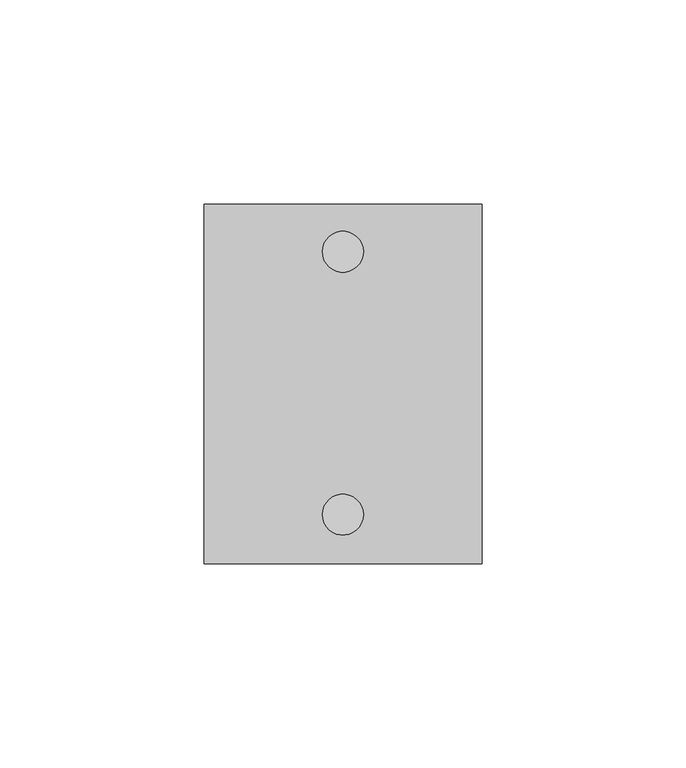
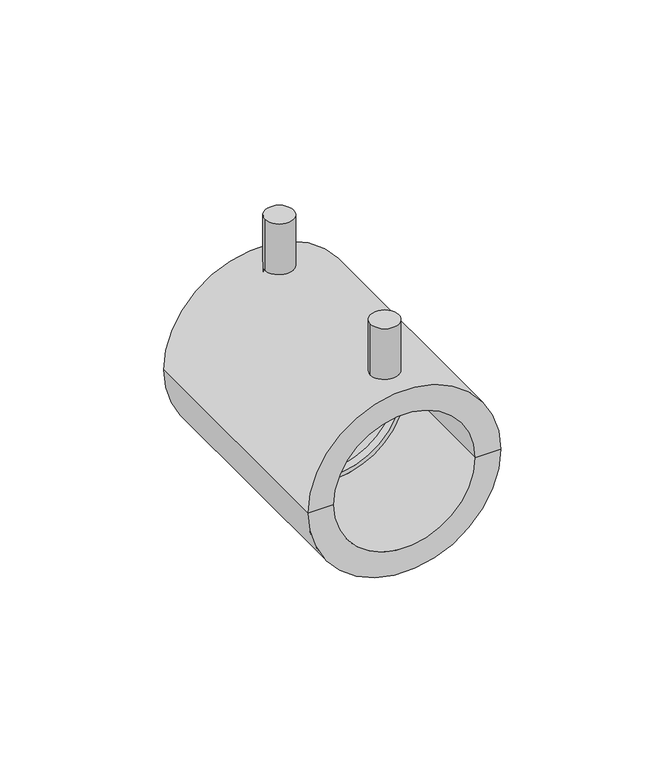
"""IFC4 building model written with IfcOpenShell, lengths in millimetres: pipe fitting geometry, NIRON RED electrico manguito : Estándar."""

from ifc_helpers import new_model, si_unit, point, frame, frame_2d, origin, place, context, project, spatial, polyline, circle_curve, trimmed, segment, composite_curve, outline, extrude, source, transform, mapped, element, save
from ifc_brep_helpers import plane_surface, cylinder_surface, revolved_surface, advanced_brep


def pipe_fitting_b99a54ee(model_context):
    return source(origin(), model_context, "Body", "SolidModel", [
        advanced_brep(
        [(34.0, 88.0, 0.0), (-34.0, 88.0, 0.0), (-25.0, 88.0, 0.0), (25.0, 88.0, 0.0), (34.0, 0.0, 0.0), (-34.0, 0.0, 0.0), (25.0, 0.0, 0.0), (-25.0, 0.0, 0.0), (25.0, 42.5, 0.0), (-25.0, 42.5, 0.0), (23.5, 42.5, 0.0), (-23.5, 42.5, 0.0), (23.5, 45.5, 0.0), (-23.5, 45.5, 0.0), (25.0, 45.5, 0.0), (-25.0, 45.5, 0.0)],
        [
            (0, 1, circle_curve(frame((0.0, 88.0, 0.0), z_axis=(0.0, 1.0, 0.0), x_axis=(-1.0, 0.0, 0.0)), 34.0)),
            (1, 2),
            (2, 3, circle_curve(frame((0.0, 88.0, 0.0), z_axis=(0.0, -1.0, 0.0), x_axis=(-1.0, 0.0, 0.0)), 25.0)),
            (3, 0),
            (1, 0, circle_curve(frame((0.0, 88.0, 0.0), z_axis=(0.0, 1.0, 0.0), x_axis=(-1.0, 0.0, 0.0)), 34.0)),
            (3, 2, circle_curve(frame((0.0, 88.0, 0.0), z_axis=(0.0, -1.0, 0.0), x_axis=(-1.0, 0.0, 0.0)), 25.0)),
            (4, 5, circle_curve(frame((0.0, 0.0, 0.0), z_axis=(0.0, 1.0, 0.0), x_axis=(-1.0, 0.0, 0.0)), 34.0)),
            (5, 1),
            (0, 4),
            (5, 4, circle_curve(frame((0.0, 0.0, 0.0), z_axis=(0.0, 1.0, 0.0), x_axis=(-1.0, 0.0, 0.0)), 34.0)),
            (6, 7, circle_curve(frame((0.0, 0.0, 0.0), z_axis=(0.0, 1.0, 0.0), x_axis=(-1.0, 0.0, 0.0)), 25.0)),
            (7, 5),
            (4, 6),
            (7, 6, circle_curve(frame((0.0, 0.0, 0.0), z_axis=(0.0, 1.0, 0.0), x_axis=(-1.0, 0.0, 0.0)), 25.0)),
            (8, 9, circle_curve(frame((0.0, 42.5, 0.0), z_axis=(0.0, 1.0, 0.0), x_axis=(-1.0, 0.0, 0.0)), 25.0)),
            (9, 7),
            (6, 8),
            (9, 8, circle_curve(frame((0.0, 42.5, 0.0), z_axis=(0.0, 1.0, 0.0), x_axis=(-1.0, 0.0, 0.0)), 25.0)),
            (10, 11, circle_curve(frame((0.0, 42.5, 0.0), z_axis=(0.0, 1.0, 0.0), x_axis=(-1.0, 0.0, 0.0)), 23.5)),
            (11, 9),
            (8, 10),
            (11, 10, circle_curve(frame((0.0, 42.5, 0.0), z_axis=(0.0, 1.0, 0.0), x_axis=(-1.0, 0.0, 0.0)), 23.5)),
            (12, 13, circle_curve(frame((0.0, 45.5, 0.0), z_axis=(0.0, 1.0, 0.0), x_axis=(-1.0, 0.0, 0.0)), 23.5)),
            (13, 11),
            (10, 12),
            (13, 12, circle_curve(frame((0.0, 45.5, 0.0), z_axis=(0.0, 1.0, 0.0), x_axis=(-1.0, 0.0, 0.0)), 23.5)),
            (14, 15, circle_curve(frame((0.0, 45.5, 0.0), z_axis=(0.0, 1.0, 0.0), x_axis=(-1.0, 0.0, 0.0)), 25.0)),
            (15, 13),
            (12, 14),
            (15, 14, circle_curve(frame((0.0, 45.5, 0.0), z_axis=(0.0, 1.0, 0.0), x_axis=(-1.0, 0.0, 0.0)), 25.0)),
            (2, 15),
            (14, 3),
        ],
        [
            plane_surface(frame((0.0, 88.0, 0.0), z_axis=(0.0, 1.0, 0.0), x_axis=(-1.0, 0.0, 0.0))),
            cylinder_surface(frame((0.0, 113.0, 0.0), z_axis=(0.0, -1.0, 0.0), x_axis=(-1.0, 0.0, 0.0)), 34.0),
            plane_surface(frame((0.0, 0.0, 0.0), z_axis=(0.0, -1.0, 0.0), x_axis=(-1.0, 0.0, 0.0))),
            revolved_surface(polyline([(-25.0, 0.0, 0.0), (-25.0, 42.5, 0.0)]), (0.0, 113.0, 0.0), (0.0, -1.0, 0.0)),
            plane_surface(frame((0.0, 42.5, 0.0), z_axis=(0.0, -1.0, 0.0), x_axis=(-1.0, 0.0, 0.0))),
            revolved_surface(polyline([(-23.5, 42.5, 0.0), (-23.5, 45.5, 0.0)]), (0.0, 113.0, 0.0), (0.0, -1.0, 0.0)),
            plane_surface(frame((0.0, 45.5, 0.0), z_axis=(0.0, 1.0, 0.0), x_axis=(-1.0, 0.0, 0.0))),
            revolved_surface(polyline([(-25.0, 45.5, 0.0), (-25.0, 88.0, 0.0)]), (0.0, 113.0, 0.0), (0.0, -1.0, 0.0)),
        ],
        [
            (0, [[1, 2, 3, 4]]),
            (0, [[5, -4, 6, -2]]),
            (1, [[7, 8, -1, 9]]),
            (1, [[10, -9, -5, -8]]),
            (2, [[11, 12, -7, 13]]),
            (2, [[14, -13, -10, -12]]),
            (3, [[15, 16, -11, 17]]),
            (3, [[18, -17, -14, -16]]),
            (4, [[19, 20, -15, 21]]),
            (4, [[22, -21, -18, -20]]),
            (5, [[23, 24, -19, 25]]),
            (5, [[26, -25, -22, -24]]),
            (6, [[27, 28, -23, 29]]),
            (6, [[30, -29, -26, -28]]),
            (7, [[-3, 31, -27, 32]]),
            (7, [[-6, -32, -30, -31]]),
        ],
    ),
        extrude(outline(composite_curve([segment(trimmed(circle_curve(frame_2d((0.0, 12.0)), 5.0), [point((-5.0, 12.0))], [point((5.0, 12.0))], False, "CARTESIAN"), True, "CONTINUOUS"), segment(trimmed(circle_curve(frame_2d((0.0, 12.0)), 5.0), [point((5.0, 12.0))], [point((-5.0, 12.0))], False, "CARTESIAN"), True, "CONTINUOUS")], self_intersect=False)), frame((0.0, 0.0, 31.0), z_axis=(0.0, 0.0, 1.0), x_axis=(1.0, 0.0, 0.0)), (0.0, 0.0, 1.0), 22.0),
        extrude(outline(composite_curve([segment(trimmed(circle_curve(frame_2d((0.0, 76.3742842)), 5.0), [point((-5.0, 76.3742842))], [point((5.0, 76.3742842))], False, "CARTESIAN"), True, "CONTINUOUS"), segment(trimmed(circle_curve(frame_2d((0.0, 76.3742842)), 5.0), [point((5.0, 76.3742842))], [point((-5.0, 76.3742842))], False, "CARTESIAN"), True, "CONTINUOUS")], self_intersect=False)), frame((0.0, 0.0, 31.0), z_axis=(0.0, 0.0, 1.0), x_axis=(1.0, 0.0, 0.0)), (0.0, 0.0, 1.0), 22.0),
    ])


if __name__ == "__main__":
    model = new_model("IFC4")
    model_context = context("Model", 3, world=origin())
    ifc_project = project(units=[si_unit("LENGTHUNIT", "METRE", prefix="MILLI")], contexts=[model_context])
    site = spatial("IfcSite", under=ifc_project)
    building = spatial("IfcBuilding", under=site)
    placement = place(None, origin())
    pipe_fitting_shape = pipe_fitting_b99a54ee(model_context)
    element("IfcPipeFitting", 1, ObjectType="NIRON RED electrico manguito : Estándar", at=placement, inside=building, context=model_context, shape_type="MappedRepresentation", body=[
        mapped(pipe_fitting_shape, transform((0.0, 0.0, 0.0), x_axis=(1.0, 0.0, 0.0), y_axis=(0.0, 1.0, 0.0), z_axis=(0.0, 0.0, 1.0))),
    ])
    save(model, "model.ifc")
